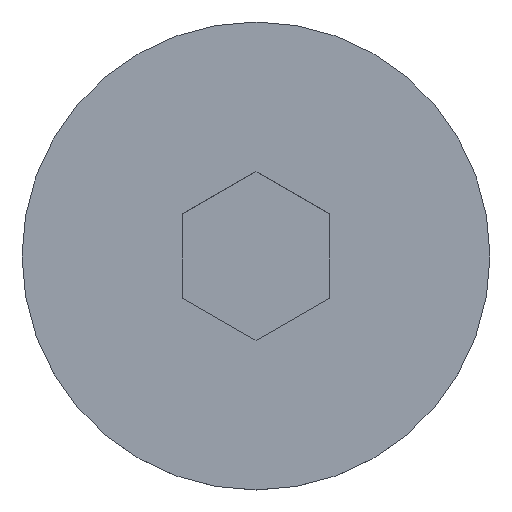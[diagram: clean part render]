
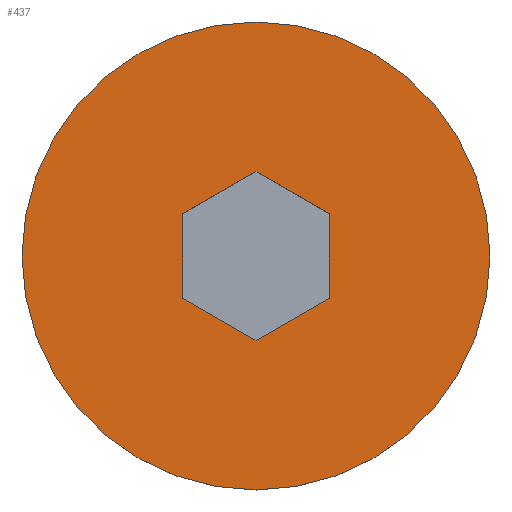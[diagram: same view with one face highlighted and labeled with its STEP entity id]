
A CAD part, top view. The second image highlights one B-rep face of the part: STEP entity #437.
In plain terms, the highlighted planar face has unit normal (0, 0, 1).
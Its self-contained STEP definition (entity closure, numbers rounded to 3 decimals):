
#228=CARTESIAN_POINT('',(-1.25,-0.722,0.0));
#229=VERTEX_POINT('',#228);
#236=CARTESIAN_POINT('',(0.,-1.443,0.0));
#237=VERTEX_POINT('',#236);
#238=CARTESIAN_POINT('',(0.,-1.443,0.0));
#239=DIRECTION('',(-0.866,0.5,0.0));
#240=VECTOR('',#239,1.443);
#241=LINE('',#238,#240);
#242=EDGE_CURVE('',#237,#229,#241,.T.);
#267=CARTESIAN_POINT('',(1.25,-0.722,0.0));
#268=VERTEX_POINT('',#267);
#269=CARTESIAN_POINT('',(1.25,-0.722,0.0));
#270=DIRECTION('',(-0.866,-0.5,0.0));
#271=VECTOR('',#270,1.443);
#272=LINE('',#269,#271);
#273=EDGE_CURVE('',#268,#237,#272,.T.);
#298=CARTESIAN_POINT('',(1.25,0.722,0.0));
#299=VERTEX_POINT('',#298);
#300=CARTESIAN_POINT('',(1.25,0.722,0.0));
#301=DIRECTION('',(0.0,-1.0,0.0));
#302=VECTOR('',#301,1.443);
#303=LINE('',#300,#302);
#304=EDGE_CURVE('',#299,#268,#303,.T.);
#329=CARTESIAN_POINT('',(0.,1.443,0.0));
#330=VERTEX_POINT('',#329);
#331=CARTESIAN_POINT('',(0.,1.443,0.0));
#332=DIRECTION('',(0.866,-0.5,0.0));
#333=VECTOR('',#332,1.443);
#334=LINE('',#331,#333);
#335=EDGE_CURVE('',#330,#299,#334,.T.);
#360=CARTESIAN_POINT('',(-1.25,0.722,0.0));
#361=VERTEX_POINT('',#360);
#362=CARTESIAN_POINT('',(-1.25,0.722,0.0));
#363=DIRECTION('',(0.866,0.5,0.0));
#364=VECTOR('',#363,1.443);
#365=LINE('',#362,#364);
#366=EDGE_CURVE('',#361,#330,#365,.T.);
#389=CARTESIAN_POINT('',(-1.25,-0.722,0.0));
#390=DIRECTION('',(0.0,1.0,0.0));
#391=VECTOR('',#390,1.443);
#392=LINE('',#389,#391);
#393=EDGE_CURVE('',#229,#361,#392,.T.);
#413=CARTESIAN_POINT('',(2.,0.0,0.0));
#414=DIRECTION('',(0.0,0.0,1.0));
#415=DIRECTION('',(1.0,0.0,0.0));
#416=AXIS2_PLACEMENT_3D('',#413,#414,#415);
#417=PLANE('',#416);
#418=CARTESIAN_POINT('',(4.,0.0,0.));
#419=VERTEX_POINT('',#418);
#420=CARTESIAN_POINT('',(0.0,0.0,0.0));
#421=DIRECTION('',(0.0,0.0,-1.0));
#422=DIRECTION('',(1.0,0.0,0.0));
#423=AXIS2_PLACEMENT_3D('',#420,#421,#422);
#424=CIRCLE('',#423,4.);
#425=EDGE_CURVE('',#419,#419,#424,.T.);
#426=ORIENTED_EDGE('',*,*,#425,.F.);
#427=EDGE_LOOP('',(#426));
#428=FACE_OUTER_BOUND('',#427,.T.);
#429=ORIENTED_EDGE('',*,*,#242,.T.);
#430=ORIENTED_EDGE('',*,*,#393,.T.);
#431=ORIENTED_EDGE('',*,*,#366,.T.);
#432=ORIENTED_EDGE('',*,*,#335,.T.);
#433=ORIENTED_EDGE('',*,*,#304,.T.);
#434=ORIENTED_EDGE('',*,*,#273,.T.);
#435=EDGE_LOOP('',(#429,#430,#431,#432,#433,#434));
#436=FACE_BOUND('',#435,.T.);
#437=ADVANCED_FACE('',(#428,#436),#417,.T.);
